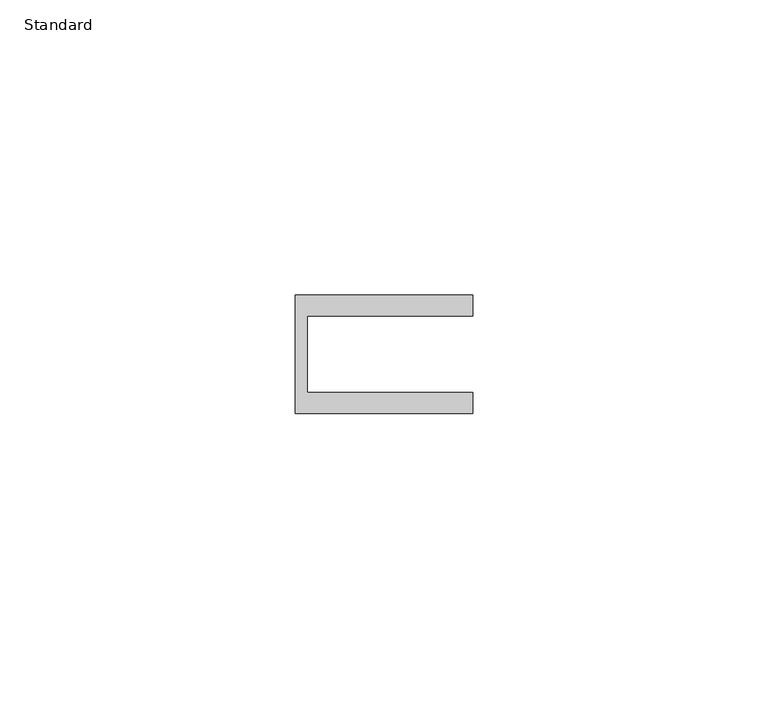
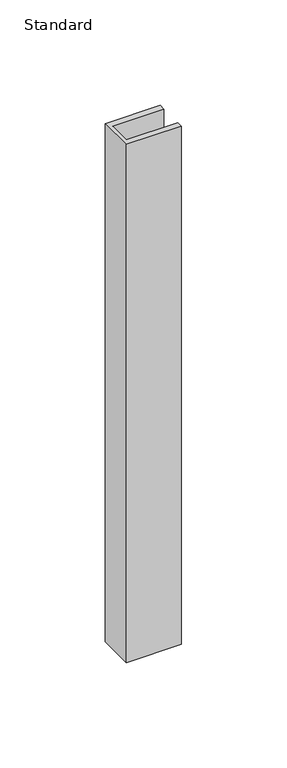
"""IFC4 building model written with IfcOpenShell, lengths in millimetres: furniture geometry, X_Partition-Channel-Duracube-End : Standard."""

from ifc_helpers import new_model, si_unit, frame, origin, place, context, project, spatial, polyline, outline, extrude, source, transform, mapped, element, save


def standard_98cf1e17(model_context):
    return source(origin(), model_context, "Body", "SweptSolid", [
        extrude(outline(polyline([(31.7003264, 0.0), (31.7003264, -13.0), (59.7003264, -13.0), (59.7003264, -16.5), (29.7003264, -16.5), (29.7003264, 3.5), (59.7003264, 3.5), (59.7003264, 0.0), (31.7003264, 0.0)])), frame((0.0, 0.0, 537.0), z_axis=(0.0, 0.0, 1.0), x_axis=(1.0, 0.0, 0.0)), (0.0, 0.0, 1.0), 300.0),
    ])


if __name__ == "__main__":
    model = new_model("IFC4")
    model_context = context("Model", 3, world=origin())
    ifc_project = project(units=[si_unit("LENGTHUNIT", "METRE", prefix="MILLI")], contexts=[model_context])
    site = spatial("IfcSite", under=ifc_project)
    building = spatial("IfcBuilding", under=site)
    placement = place(None, origin())
    standard_shape = standard_98cf1e17(model_context)
    element("IfcFurniture", 1, ObjectType="X_Partition-Channel-Duracube-End : Standard", at=placement, inside=building, context=model_context, shape_type="MappedRepresentation", body=[
        mapped(standard_shape, transform((0.0, 0.0, 0.0), x_axis=(1.0, 0.0, 0.0), y_axis=(0.0, 1.0, 0.0), z_axis=(0.0, 0.0, 1.0))),
    ])
    save(model, "model.ifc")
